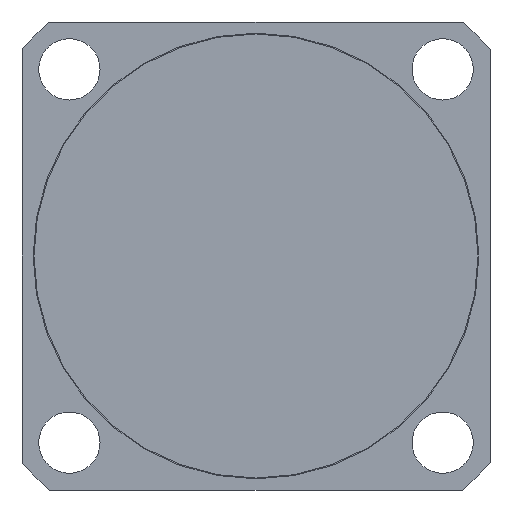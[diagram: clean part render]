
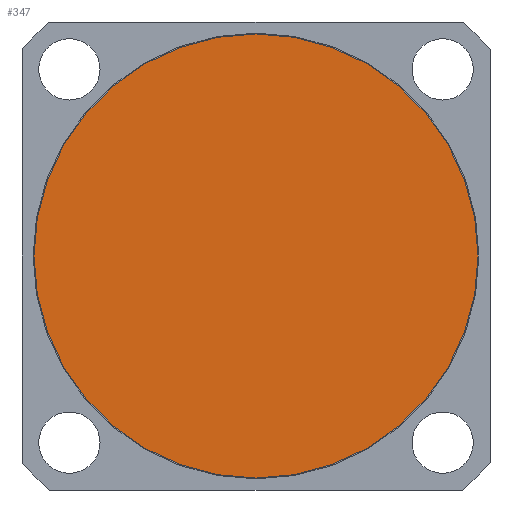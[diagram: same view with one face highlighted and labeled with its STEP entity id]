
A CAD part, front view. The second image highlights one B-rep face of the part: STEP entity #347.
In plain terms, the highlighted planar face has unit normal (0, -1, 0).
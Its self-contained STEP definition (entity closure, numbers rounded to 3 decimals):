
#347 = ADVANCED_FACE( '', ( #720 ), #721, .T. );
#720 = FACE_OUTER_BOUND( '', #1314, .T. );
#721 = PLANE( '', #1315 );
#1314 = EDGE_LOOP( '', ( #2240 ) );
#1315 = AXIS2_PLACEMENT_3D( '', #2241, #2242, #2243 );
#2240 = ORIENTED_EDGE( '', *, *, #3814, .T. );
#2241 = CARTESIAN_POINT( '', ( 0., -70.5, 0. ) );
#2242 = DIRECTION( '', ( 0., -1., 0. ) );
#2243 = DIRECTION( '', ( 1., 0., 0. ) );
#3814 = EDGE_CURVE( '', #4536, #4536, #4537, .T. );
#4536 = VERTEX_POINT( '', #5753 );
#4537 = CIRCLE( '', #5754, 39.85 );
#5753 = CARTESIAN_POINT( '', ( -39.85, -70.5, 0. ) );
#5754 = AXIS2_PLACEMENT_3D( '', #7016, #7017, #7018 );
#7016 = CARTESIAN_POINT( '', ( 0., -70.5, 0. ) );
#7017 = DIRECTION( '', ( 0., -1., 0. ) );
#7018 = DIRECTION( '', ( -1., 0., 0. ) );
